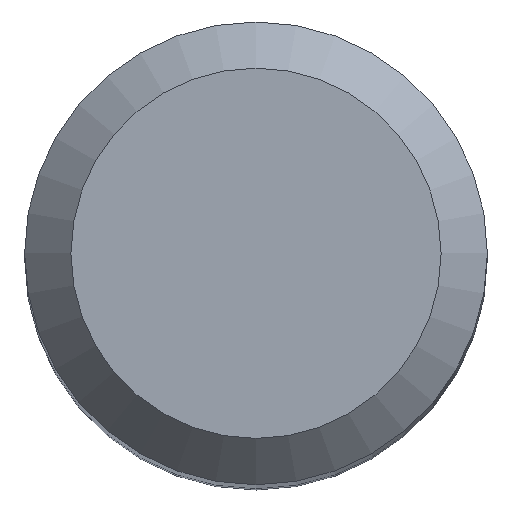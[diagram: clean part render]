
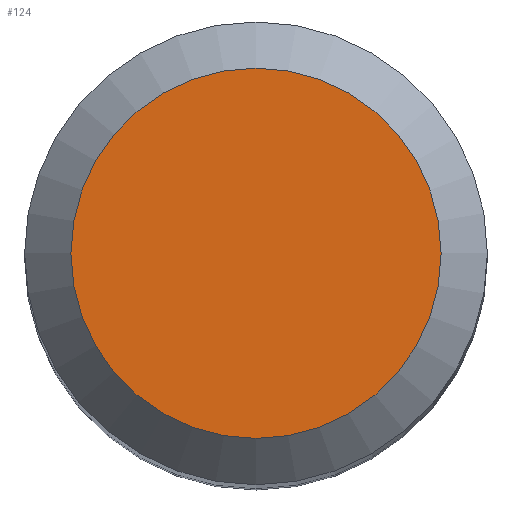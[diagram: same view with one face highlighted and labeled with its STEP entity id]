
A CAD part, top view. The second image highlights one B-rep face of the part: STEP entity #124.
In plain terms, the highlighted planar face has unit normal (0, 0, 1).
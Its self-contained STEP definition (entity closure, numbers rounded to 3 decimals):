
#108=CARTESIAN_POINT('',(4.8,0.0,80.0));
#109=DIRECTION('',(0.0,0.0,1.0));
#110=DIRECTION('',(1.0,0.0,0.0));
#111=AXIS2_PLACEMENT_3D('',#108,#109,#110);
#112=PLANE('',#111);
#113=CARTESIAN_POINT('',(-4.8,0.0,80.0));
#114=VERTEX_POINT('',#113);
#115=CARTESIAN_POINT('',(0.0,0.0,80.0));
#116=DIRECTION('',(0.0,0.0,-1.0));
#117=DIRECTION('',(-1.0,0.0,0.0));
#118=AXIS2_PLACEMENT_3D('',#115,#116,#117);
#119=CIRCLE('',#118,4.8);
#120=EDGE_CURVE('',#114,#114,#119,.T.);
#121=ORIENTED_EDGE('',*,*,#120,.F.);
#122=EDGE_LOOP('',(#121));
#123=FACE_OUTER_BOUND('',#122,.T.);
#124=ADVANCED_FACE('',(#123),#112,.T.);
